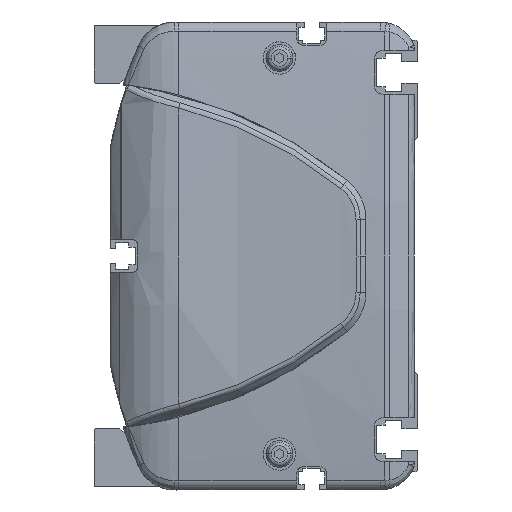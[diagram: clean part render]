
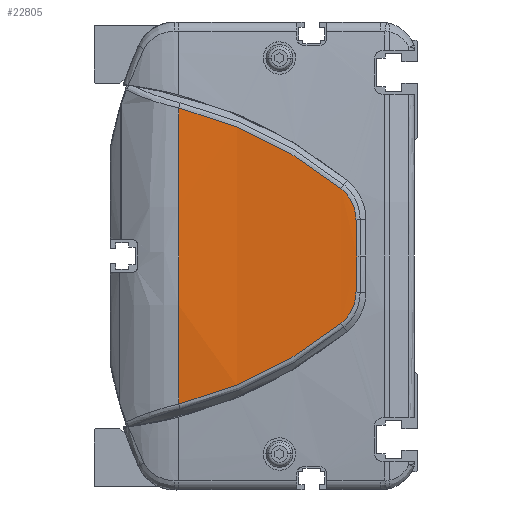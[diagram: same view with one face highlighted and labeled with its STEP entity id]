
A CAD part, left-side view. The second image highlights one B-rep face of the part: STEP entity #22805.
In plain terms, the highlighted cylindrical face has radius 500 mm (diameter 1000 mm), a partial arc.
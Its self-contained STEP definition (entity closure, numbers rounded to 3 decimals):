
#7267=CARTESIAN_POINT('',(486.,66.362,0.));
#7268=DIRECTION('',(0.,-1.,0.));
#7269=DIRECTION('',(-0.997,0.,0.082));
#7270=AXIS2_PLACEMENT_3D('',#7267,#7268,#7269);
#7335=CARTESIAN_POINT('',(-13.648,21.313,
-18.759));
#7336=CARTESIAN_POINT('',(-13.449,27.904,
-24.058));
#7337=CARTESIAN_POINT('',(-12.934,42.195,
-33.27));
#7338=CARTESIAN_POINT('',(-12.471,58.156,
-39.127));
#7339=CARTESIAN_POINT('',(-12.306,66.362,
-41.121));
#7341=CARTESIAN_POINT('',(-12.306,66.362,41.121));
#7342=CARTESIAN_POINT('',(-12.471,58.156,39.127));
#7343=CARTESIAN_POINT('',(-12.934,42.195,33.27));
#7344=CARTESIAN_POINT('',(-13.449,27.904,24.058));
#7345=CARTESIAN_POINT('',(-13.648,21.313,18.759));
#7347=CARTESIAN_POINT('',(-13.648,21.313,18.759));
#7348=CARTESIAN_POINT('',(-13.686,20.035,17.736));
#7349=CARTESIAN_POINT('',(-13.779,17.936,15.107));
#7350=CARTESIAN_POINT('',(-13.863,17.152,11.827));
#7351=CARTESIAN_POINT('',(-13.896,17.124,10.178));
#7353=CARTESIAN_POINT('',(-13.896,17.124,10.178));
#7354=CARTESIAN_POINT('',(-13.92,17.107,9.02));
#7355=CARTESIAN_POINT('',(-13.959,17.067,6.722));
#7356=CARTESIAN_POINT('',(-13.993,16.979,3.328));
#7357=CARTESIAN_POINT('',(-14.,16.898,1.103));
#7358=CARTESIAN_POINT('',(-14.,16.849,
0.));
#7360=CARTESIAN_POINT('',(-14.,16.849,
0.));
#7361=CARTESIAN_POINT('',(-14.,16.898,
-1.103));
#7362=CARTESIAN_POINT('',(-13.993,16.979,
-3.328));
#7363=CARTESIAN_POINT('',(-13.959,17.067,
-6.721));
#7364=CARTESIAN_POINT('',(-13.92,17.107,
-9.022));
#7365=CARTESIAN_POINT('',(-13.896,17.124,
-10.18));
#7367=CARTESIAN_POINT('',(-13.896,17.124,
-10.18));
#7368=CARTESIAN_POINT('',(-13.863,17.152,
-11.828));
#7369=CARTESIAN_POINT('',(-13.779,17.937,
-15.109));
#7370=CARTESIAN_POINT('',(-13.686,20.035,
-17.736));
#7371=CARTESIAN_POINT('',(-13.648,21.313,
-18.759));
#10593=VERTEX_POINT('',#7335);
#10594=VERTEX_POINT('',#7339);
#10595=CARTESIAN_POINT('',(-12.306,66.362,
41.121));
#10596=VERTEX_POINT('',#10595);
#10597=VERTEX_POINT('',#7345);
#10598=VERTEX_POINT('',#7351);
#10599=VERTEX_POINT('',#7358);
#10600=VERTEX_POINT('',#7365);
#22785=CARTESIAN_POINT('',(486.,8.006,0.));
#22786=DIRECTION('',(0.,1.,0.));
#22787=DIRECTION('',(1.,0.,0.));
#22788=AXIS2_PLACEMENT_3D('',#22785,#22786,#22787);
#22789=CYLINDRICAL_SURFACE('',#22788,500.);
#22791=ORIENTED_EDGE('',*,*,#22790,.T.);
#22792=ORIENTED_EDGE('',*,*,#22758,.F.);
#22794=ORIENTED_EDGE('',*,*,#22793,.T.);
#22796=ORIENTED_EDGE('',*,*,#22795,.T.);
#22798=ORIENTED_EDGE('',*,*,#22797,.T.);
#22800=ORIENTED_EDGE('',*,*,#22799,.T.);
#22802=ORIENTED_EDGE('',*,*,#22801,.T.);
#22803=EDGE_LOOP('',(#22791,#22792,#22794,#22796,#22798,#22800,#22802));
#22804=FACE_OUTER_BOUND('',#22803,.F.);
#22805=ADVANCED_FACE('',(#22804),#22789,.T.);
#7271=CIRCLE('',#7270,500.);
#7340=B_SPLINE_CURVE_WITH_KNOTS('',3,(#7335,#7336,#7337,#7338,#7339),
.UNSPECIFIED.,.F.,.F.,(4,1,4),(0.,0.5,1.),.UNSPECIFIED.);
#7346=B_SPLINE_CURVE_WITH_KNOTS('',3,(#7341,#7342,#7343,#7344,#7345),
.UNSPECIFIED.,.F.,.F.,(4,1,4),(0.,0.5,1.),.UNSPECIFIED.);
#7352=B_SPLINE_CURVE_WITH_KNOTS('',3,(#7347,#7348,#7349,#7350,#7351),
.UNSPECIFIED.,.F.,.F.,(4,1,4),(0.,0.5,1.),.UNSPECIFIED.);
#7359=B_SPLINE_CURVE_WITH_KNOTS('',3,(#7353,#7354,#7355,#7356,#7357,#7358),
.UNSPECIFIED.,.F.,.F.,(4,1,1,4),(0.,0.333,0.667,1.),
.UNSPECIFIED.);
#7366=B_SPLINE_CURVE_WITH_KNOTS('',3,(#7360,#7361,#7362,#7363,#7364,#7365),
.UNSPECIFIED.,.F.,.F.,(4,1,1,4),(0.,0.333,0.667,1.),
.UNSPECIFIED.);
#7372=B_SPLINE_CURVE_WITH_KNOTS('',3,(#7367,#7368,#7369,#7370,#7371),
.UNSPECIFIED.,.F.,.F.,(4,1,4),(0.,0.5,1.),.UNSPECIFIED.);
#22758=EDGE_CURVE('',#10596,#10594,#7271,.T.);
#22790=EDGE_CURVE('',#10593,#10594,#7340,.T.);
#22793=EDGE_CURVE('',#10596,#10597,#7346,.T.);
#22795=EDGE_CURVE('',#10597,#10598,#7352,.T.);
#22797=EDGE_CURVE('',#10598,#10599,#7359,.T.);
#22799=EDGE_CURVE('',#10599,#10600,#7366,.T.);
#22801=EDGE_CURVE('',#10600,#10593,#7372,.T.);
